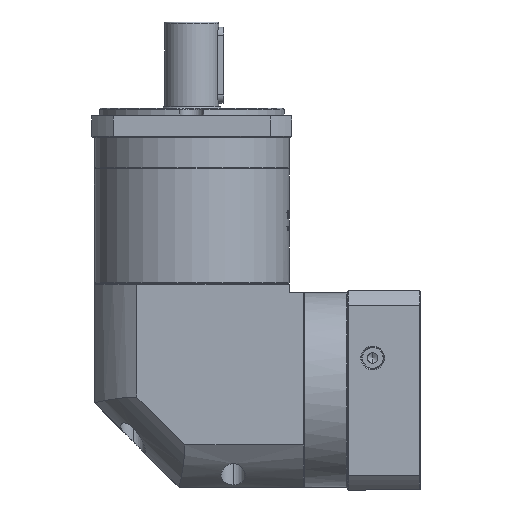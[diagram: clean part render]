
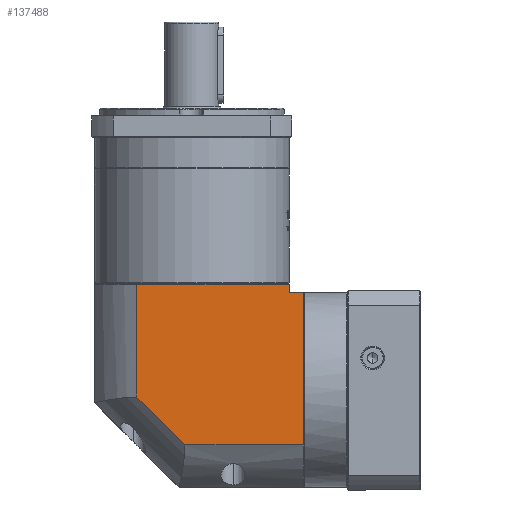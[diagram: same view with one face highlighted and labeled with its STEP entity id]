
A CAD part, left-side view. The second image highlights one B-rep face of the part: STEP entity #137488.
In plain terms, the highlighted planar face has unit normal (-1, 0, 0).
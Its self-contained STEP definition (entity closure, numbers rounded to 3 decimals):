
#3345 = AXIS2_PLACEMENT_3D ( 'NONE', #156615, #116404, #169851 ) ;
#5553 = LINE ( 'NONE', #8091, #17834 ) ;
#8091 = CARTESIAN_POINT ( 'NONE',  ( -278.357, -31.227, 58.844 ) ) ;
#8126 = CARTESIAN_POINT ( 'NONE',  ( -278.357, -59.565, -42.556 ) ) ;
#8298 = ORIENTED_EDGE ( 'NONE', *, *, #77243, .F. ) ;
#10807 = CARTESIAN_POINT ( 'NONE',  ( -278.357, -6.127, -42.556 ) ) ;
#11032 = VERTEX_POINT ( 'NONE', #36510 ) ;
#17341 = VERTEX_POINT ( 'NONE', #49590 ) ;
#17834 = VECTOR ( 'NONE', #61404, 1000. ) ;
#20728 = CARTESIAN_POINT ( 'NONE',  ( -278.357, -31.227, -14.218 ) ) ;
#21528 = LINE ( 'NONE', #10807, #157039 ) ;
#21792 = VERTEX_POINT ( 'NONE', #65117 ) ;
#21794 = EDGE_CURVE ( 'NONE', #17341, #99986, #119072, .T. ) ;
#24034 = VERTEX_POINT ( 'NONE', #20728 ) ;
#27986 = CARTESIAN_POINT ( 'NONE',  ( -278.357, -31.227, 52.344 ) ) ;
#35227 = ORIENTED_EDGE ( 'NONE', *, *, #94993, .F. ) ;
#35976 = DIRECTION ( 'NONE',  ( 0., -1., 0. ) ) ;
#36510 = CARTESIAN_POINT ( 'NONE',  ( -278.357, -59.565, -42.556 ) ) ;
#44165 = CARTESIAN_POINT ( 'NONE',  ( -278.357, -121.127, 47.344 ) ) ;
#49590 = CARTESIAN_POINT ( 'NONE',  ( -278.357, -129.527, 47.344 ) ) ;
#52210 = ORIENTED_EDGE ( 'NONE', *, *, #108555, .T. ) ;
#52539 = DIRECTION ( 'NONE',  ( 0., 0., -1. ) ) ;
#53343 = LINE ( 'NONE', #100327, #158069 ) ;
#60426 = VERTEX_POINT ( 'NONE', #27986 ) ;
#61034 = VECTOR ( 'NONE', #80385, 1000. ) ;
#61404 = DIRECTION ( 'NONE',  ( 0., 0., 1. ) ) ;
#65117 = CARTESIAN_POINT ( 'NONE',  ( -278.357, -121.127, 52.344 ) ) ;
#67709 = LINE ( 'NONE', #8126, #119118 ) ;
#67772 = ORIENTED_EDGE ( 'NONE', *, *, #116379, .F. ) ;
#68306 = ORIENTED_EDGE ( 'NONE', *, *, #161347, .F. ) ;
#73897 = VECTOR ( 'NONE', #35976, 1000. ) ;
#73959 = DIRECTION ( 'NONE',  ( 0., 0.707, 0.707 ) ) ;
#77243 = EDGE_CURVE ( 'NONE', #11032, #24034, #67709, .T. ) ;
#80385 = DIRECTION ( 'NONE',  ( 0., 0., 1. ) ) ;
#92389 = VECTOR ( 'NONE', #52539, 1000. ) ;
#94993 = EDGE_CURVE ( 'NONE', #60426, #21792, #108855, .T. ) ;
#96914 = EDGE_LOOP ( 'NONE', ( #68306, #8298, #67772, #98794, #52210, #103743, #35227 ) ) ;
#97324 = CARTESIAN_POINT ( 'NONE',  ( -278.357, -129.527, -42.556 ) ) ;
#98794 = ORIENTED_EDGE ( 'NONE', *, *, #21794, .F. ) ;
#99967 = LINE ( 'NONE', #159159, #61034 ) ;
#99986 = VERTEX_POINT ( 'NONE', #97324 ) ;
#100327 = CARTESIAN_POINT ( 'NONE',  ( -278.357, -121.127, 47.344 ) ) ;
#100713 = CARTESIAN_POINT ( 'NONE',  ( -278.357, -6.127, 52.344 ) ) ;
#103743 = ORIENTED_EDGE ( 'NONE', *, *, #155835, .T. ) ;
#108555 = EDGE_CURVE ( 'NONE', #17341, #168779, #53343, .T. ) ;
#108855 = LINE ( 'NONE', #100713, #73897 ) ;
#116379 = EDGE_CURVE ( 'NONE', #99986, #11032, #21528, .T. ) ;
#116404 = DIRECTION ( 'NONE',  ( 1., 0., 0. ) ) ;
#116884 = DIRECTION ( 'NONE',  ( 0., 1., 0. ) ) ;
#117530 = PLANE ( 'NONE',  #3345 ) ;
#117906 = CARTESIAN_POINT ( 'NONE',  ( -278.357, -129.527, 58.844 ) ) ;
#119072 = LINE ( 'NONE', #117906, #92389 ) ;
#119118 = VECTOR ( 'NONE', #73959, 1000. ) ;
#137488 = ADVANCED_FACE ( 'NONE', ( #145561 ), #117530, .F. ) ;
#139440 = DIRECTION ( 'NONE',  ( 0., 1., 0. ) ) ;
#145561 = FACE_OUTER_BOUND ( 'NONE', #96914, .T. ) ;
#155835 = EDGE_CURVE ( 'NONE', #168779, #21792, #99967, .T. ) ;
#156615 = CARTESIAN_POINT ( 'NONE',  ( -278.357, -6.127, 58.844 ) ) ;
#157039 = VECTOR ( 'NONE', #116884, 1000. ) ;
#158069 = VECTOR ( 'NONE', #139440, 1000. ) ;
#159159 = CARTESIAN_POINT ( 'NONE',  ( -278.357, -121.127, -67.656 ) ) ;
#161347 = EDGE_CURVE ( 'NONE', #24034, #60426, #5553, .T. ) ;
#168779 = VERTEX_POINT ( 'NONE', #44165 ) ;
#169851 = DIRECTION ( 'NONE',  ( 0., 1., 0. ) ) ;
